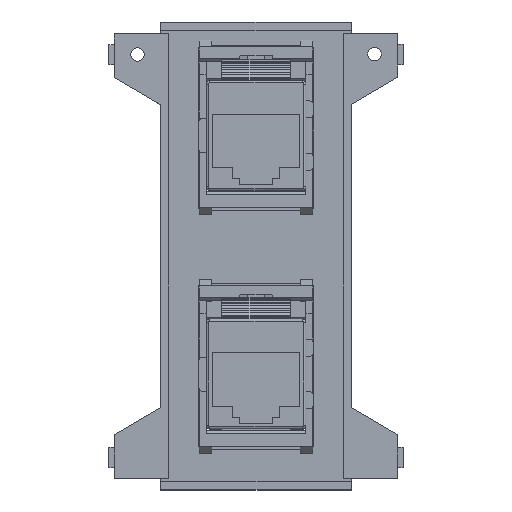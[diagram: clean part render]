
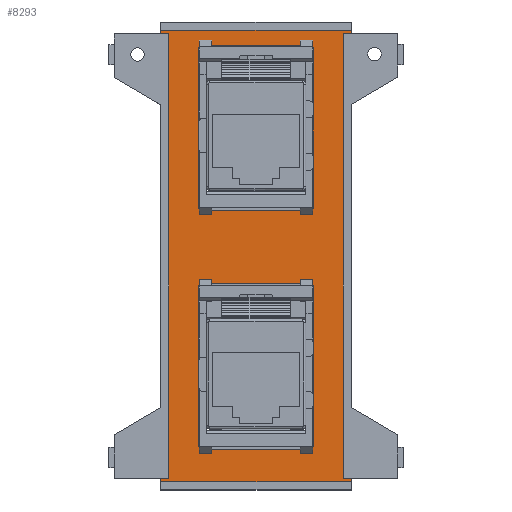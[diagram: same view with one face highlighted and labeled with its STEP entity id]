
A CAD part, top view. The second image highlights one B-rep face of the part: STEP entity #8293.
In plain terms, the highlighted planar face has unit normal (0, 0, 1).
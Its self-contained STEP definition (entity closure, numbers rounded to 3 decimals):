
#7807 = VERTEX_POINT('',#7808);
#7808 = CARTESIAN_POINT('',(-30.95,-7.9,1.2));
#7814 = EDGE_CURVE('',#7815,#7807,#7817,.T.);
#7815 = VERTEX_POINT('',#7816);
#7816 = CARTESIAN_POINT('',(-30.95,7.9,1.2));
#7817 = LINE('',#7818,#7819);
#7818 = CARTESIAN_POINT('',(-30.95,-4.2,1.2));
#7819 = VECTOR('',#7820,1.);
#7820 = DIRECTION('',(0.,-1.,0.));
#7838 = VERTEX_POINT('',#7839);
#7839 = CARTESIAN_POINT('',(-30.45,-8.4,1.2));
#7845 = EDGE_CURVE('',#7807,#7838,#7846,.T.);
#7846 = CIRCLE('',#7847,0.5);
#7847 = AXIS2_PLACEMENT_3D('',#7848,#7849,#7850);
#7848 = CARTESIAN_POINT('',(-30.45,-7.9,1.2));
#7849 = DIRECTION('',(-0.,0.,1.));
#7850 = DIRECTION('',(0.,-1.,0.));
#7862 = EDGE_CURVE('',#7815,#7863,#7865,.T.);
#7863 = VERTEX_POINT('',#7864);
#7864 = CARTESIAN_POINT('',(-30.45,8.4,1.2));
#7865 = CIRCLE('',#7866,0.5);
#7866 = AXIS2_PLACEMENT_3D('',#7867,#7868,#7869);
#7867 = CARTESIAN_POINT('',(-30.45,7.9,1.2));
#7868 = DIRECTION('',(-0.,-0.,-1.));
#7869 = DIRECTION('',(0.,-1.,0.));
#7888 = VERTEX_POINT('',#7889);
#7889 = CARTESIAN_POINT('',(-7.15,-8.4,1.2));
#7895 = EDGE_CURVE('',#7838,#7888,#7896,.T.);
#7896 = LINE('',#7897,#7898);
#7897 = CARTESIAN_POINT('',(-3.325,-8.4,1.2));
#7898 = VECTOR('',#7899,1.);
#7899 = DIRECTION('',(1.,0.,0.));
#7912 = EDGE_CURVE('',#7913,#7863,#7915,.T.);
#7913 = VERTEX_POINT('',#7914);
#7914 = CARTESIAN_POINT('',(-7.15,8.4,1.2));
#7915 = LINE('',#7916,#7917);
#7916 = CARTESIAN_POINT('',(-15.475,8.4,1.2));
#7917 = VECTOR('',#7918,1.);
#7918 = DIRECTION('',(-1.,0.,0.));
#7936 = VERTEX_POINT('',#7937);
#7937 = CARTESIAN_POINT('',(-6.65,-7.9,1.2));
#7943 = EDGE_CURVE('',#7888,#7936,#7944,.T.);
#7944 = CIRCLE('',#7945,0.5);
#7945 = AXIS2_PLACEMENT_3D('',#7946,#7947,#7948);
#7946 = CARTESIAN_POINT('',(-7.15,-7.9,1.2));
#7947 = DIRECTION('',(-0.,0.,1.));
#7948 = DIRECTION('',(0.,-1.,0.));
#7961 = EDGE_CURVE('',#7962,#7913,#7964,.T.);
#7962 = VERTEX_POINT('',#7963);
#7963 = CARTESIAN_POINT('',(-6.65,7.9,1.2));
#7964 = CIRCLE('',#7965,0.5);
#7965 = AXIS2_PLACEMENT_3D('',#7966,#7967,#7968);
#7966 = CARTESIAN_POINT('',(-7.15,7.9,1.2));
#7967 = DIRECTION('',(-0.,0.,1.));
#7968 = DIRECTION('',(0.,-1.,0.));
#7986 = EDGE_CURVE('',#7936,#7962,#7987,.T.);
#7987 = LINE('',#7988,#7989);
#7988 = CARTESIAN_POINT('',(-6.65,4.2,1.2));
#7989 = VECTOR('',#7990,1.);
#7990 = DIRECTION('',(0.,1.,0.));
#8103 = VERTEX_POINT('',#8104);
#8104 = CARTESIAN_POINT('',(4.05,-7.9,1.2));
#8110 = EDGE_CURVE('',#8111,#8103,#8113,.T.);
#8111 = VERTEX_POINT('',#8112);
#8112 = CARTESIAN_POINT('',(4.05,7.9,1.2));
#8113 = LINE('',#8114,#8115);
#8114 = CARTESIAN_POINT('',(4.05,-4.2,1.2));
#8115 = VECTOR('',#8116,1.);
#8116 = DIRECTION('',(0.,-1.,0.));
#8134 = VERTEX_POINT('',#8135);
#8135 = CARTESIAN_POINT('',(4.55,-8.4,1.2));
#8141 = EDGE_CURVE('',#8103,#8134,#8142,.T.);
#8142 = CIRCLE('',#8143,0.5);
#8143 = AXIS2_PLACEMENT_3D('',#8144,#8145,#8146);
#8144 = CARTESIAN_POINT('',(4.55,-7.9,1.2));
#8145 = DIRECTION('',(-0.,0.,1.));
#8146 = DIRECTION('',(0.,-1.,0.));
#8158 = EDGE_CURVE('',#8111,#8159,#8161,.T.);
#8159 = VERTEX_POINT('',#8160);
#8160 = CARTESIAN_POINT('',(4.55,8.4,1.2));
#8161 = CIRCLE('',#8162,0.5);
#8162 = AXIS2_PLACEMENT_3D('',#8163,#8164,#8165);
#8163 = CARTESIAN_POINT('',(4.55,7.9,1.2));
#8164 = DIRECTION('',(-0.,-0.,-1.));
#8165 = DIRECTION('',(0.,-1.,0.));
#8184 = VERTEX_POINT('',#8185);
#8185 = CARTESIAN_POINT('',(27.85,-8.4,1.2));
#8191 = EDGE_CURVE('',#8134,#8184,#8192,.T.);
#8192 = LINE('',#8193,#8194);
#8193 = CARTESIAN_POINT('',(14.175,-8.4,1.2));
#8194 = VECTOR('',#8195,1.);
#8195 = DIRECTION('',(1.,0.,0.));
#8208 = EDGE_CURVE('',#8209,#8159,#8211,.T.);
#8209 = VERTEX_POINT('',#8210);
#8210 = CARTESIAN_POINT('',(27.85,8.4,1.2));
#8211 = LINE('',#8212,#8213);
#8212 = CARTESIAN_POINT('',(2.025,8.4,1.2));
#8213 = VECTOR('',#8214,1.);
#8214 = DIRECTION('',(-1.,0.,0.));
#8232 = VERTEX_POINT('',#8233);
#8233 = CARTESIAN_POINT('',(28.35,-7.9,1.2));
#8239 = EDGE_CURVE('',#8184,#8232,#8240,.T.);
#8240 = CIRCLE('',#8241,0.5);
#8241 = AXIS2_PLACEMENT_3D('',#8242,#8243,#8244);
#8242 = CARTESIAN_POINT('',(27.85,-7.9,1.2));
#8243 = DIRECTION('',(-0.,0.,1.));
#8244 = DIRECTION('',(0.,-1.,0.));
#8257 = EDGE_CURVE('',#8258,#8209,#8260,.T.);
#8258 = VERTEX_POINT('',#8259);
#8259 = CARTESIAN_POINT('',(28.35,7.9,1.2));
#8260 = CIRCLE('',#8261,0.5);
#8261 = AXIS2_PLACEMENT_3D('',#8262,#8263,#8264);
#8262 = CARTESIAN_POINT('',(27.85,7.9,1.2));
#8263 = DIRECTION('',(-0.,0.,1.));
#8264 = DIRECTION('',(0.,-1.,0.));
#8282 = EDGE_CURVE('',#8232,#8258,#8283,.T.);
#8283 = LINE('',#8284,#8285);
#8284 = CARTESIAN_POINT('',(28.35,4.2,1.2));
#8285 = VECTOR('',#8286,1.);
#8286 = DIRECTION('',(0.,1.,0.));
#8293 = ADVANCED_FACE('',(#8294,#8304,#8402),#8412,.T.);
#8294 = FACE_BOUND('',#8295,.T.);
#8295 = EDGE_LOOP('',(#8296,#8297,#8298,#8299,#8300,#8301,#8302,#8303));
#8296 = ORIENTED_EDGE('',*,*,#7912,.F.);
#8297 = ORIENTED_EDGE('',*,*,#7961,.F.);
#8298 = ORIENTED_EDGE('',*,*,#7986,.F.);
#8299 = ORIENTED_EDGE('',*,*,#7943,.F.);
#8300 = ORIENTED_EDGE('',*,*,#7895,.F.);
#8301 = ORIENTED_EDGE('',*,*,#7845,.F.);
#8302 = ORIENTED_EDGE('',*,*,#7814,.F.);
#8303 = ORIENTED_EDGE('',*,*,#7862,.T.);
#8304 = FACE_BOUND('',#8305,.T.);
#8305 = EDGE_LOOP('',(#8306,#8316,#8324,#8332,#8340,#8348,#8356,#8364,
    #8372,#8380,#8388,#8396));
#8306 = ORIENTED_EDGE('',*,*,#8307,.F.);
#8307 = EDGE_CURVE('',#8308,#8310,#8312,.T.);
#8308 = VERTEX_POINT('',#8309);
#8309 = CARTESIAN_POINT('',(-33.15,-14.,1.2));
#8310 = VERTEX_POINT('',#8311);
#8311 = CARTESIAN_POINT('',(-33.15,14.,1.2));
#8312 = LINE('',#8313,#8314);
#8313 = CARTESIAN_POINT('',(-33.15,-14.,1.2));
#8314 = VECTOR('',#8315,1.);
#8315 = DIRECTION('',(0.,1.,0.));
#8316 = ORIENTED_EDGE('',*,*,#8317,.T.);
#8317 = EDGE_CURVE('',#8308,#8318,#8320,.T.);
#8318 = VERTEX_POINT('',#8319);
#8319 = CARTESIAN_POINT('',(-32.65,-14.,1.2));
#8320 = LINE('',#8321,#8322);
#8321 = CARTESIAN_POINT('',(-34.35,-14.,1.2));
#8322 = VECTOR('',#8323,1.);
#8323 = DIRECTION('',(1.,0.,0.));
#8324 = ORIENTED_EDGE('',*,*,#8325,.F.);
#8325 = EDGE_CURVE('',#8326,#8318,#8328,.T.);
#8326 = VERTEX_POINT('',#8327);
#8327 = CARTESIAN_POINT('',(-32.65,-12.8,1.2));
#8328 = LINE('',#8329,#8330);
#8329 = CARTESIAN_POINT('',(-32.65,-12.8,1.2));
#8330 = VECTOR('',#8331,1.);
#8331 = DIRECTION('',(0.,-1.,0.));
#8332 = ORIENTED_EDGE('',*,*,#8333,.F.);
#8333 = EDGE_CURVE('',#8334,#8326,#8336,.T.);
#8334 = VERTEX_POINT('',#8335);
#8335 = CARTESIAN_POINT('',(32.65,-12.8,1.2));
#8336 = LINE('',#8337,#8338);
#8337 = CARTESIAN_POINT('',(32.65,-12.8,1.2));
#8338 = VECTOR('',#8339,1.);
#8339 = DIRECTION('',(-1.,0.,0.));
#8340 = ORIENTED_EDGE('',*,*,#8341,.F.);
#8341 = EDGE_CURVE('',#8342,#8334,#8344,.T.);
#8342 = VERTEX_POINT('',#8343);
#8343 = CARTESIAN_POINT('',(32.65,-14.,1.2));
#8344 = LINE('',#8345,#8346);
#8345 = CARTESIAN_POINT('',(32.65,-14.,1.2));
#8346 = VECTOR('',#8347,1.);
#8347 = DIRECTION('',(0.,1.,0.));
#8348 = ORIENTED_EDGE('',*,*,#8349,.T.);
#8349 = EDGE_CURVE('',#8342,#8350,#8352,.T.);
#8350 = VERTEX_POINT('',#8351);
#8351 = CARTESIAN_POINT('',(33.15,-14.,1.2));
#8352 = LINE('',#8353,#8354);
#8353 = CARTESIAN_POINT('',(-34.35,-14.,1.2));
#8354 = VECTOR('',#8355,1.);
#8355 = DIRECTION('',(1.,0.,0.));
#8356 = ORIENTED_EDGE('',*,*,#8357,.F.);
#8357 = EDGE_CURVE('',#8358,#8350,#8360,.T.);
#8358 = VERTEX_POINT('',#8359);
#8359 = CARTESIAN_POINT('',(33.15,14.,1.2));
#8360 = LINE('',#8361,#8362);
#8361 = CARTESIAN_POINT('',(33.15,14.,1.2));
#8362 = VECTOR('',#8363,1.);
#8363 = DIRECTION('',(0.,-1.,0.));
#8364 = ORIENTED_EDGE('',*,*,#8365,.T.);
#8365 = EDGE_CURVE('',#8358,#8366,#8368,.T.);
#8366 = VERTEX_POINT('',#8367);
#8367 = CARTESIAN_POINT('',(32.65,14.,1.2));
#8368 = LINE('',#8369,#8370);
#8369 = CARTESIAN_POINT('',(34.35,14.,1.2));
#8370 = VECTOR('',#8371,1.);
#8371 = DIRECTION('',(-1.,0.,0.));
#8372 = ORIENTED_EDGE('',*,*,#8373,.F.);
#8373 = EDGE_CURVE('',#8374,#8366,#8376,.T.);
#8374 = VERTEX_POINT('',#8375);
#8375 = CARTESIAN_POINT('',(32.65,12.8,1.2));
#8376 = LINE('',#8377,#8378);
#8377 = CARTESIAN_POINT('',(32.65,12.8,1.2));
#8378 = VECTOR('',#8379,1.);
#8379 = DIRECTION('',(0.,1.,0.));
#8380 = ORIENTED_EDGE('',*,*,#8381,.F.);
#8381 = EDGE_CURVE('',#8382,#8374,#8384,.T.);
#8382 = VERTEX_POINT('',#8383);
#8383 = CARTESIAN_POINT('',(-32.65,12.8,1.2));
#8384 = LINE('',#8385,#8386);
#8385 = CARTESIAN_POINT('',(-32.65,12.8,1.2));
#8386 = VECTOR('',#8387,1.);
#8387 = DIRECTION('',(1.,0.,0.));
#8388 = ORIENTED_EDGE('',*,*,#8389,.F.);
#8389 = EDGE_CURVE('',#8390,#8382,#8392,.T.);
#8390 = VERTEX_POINT('',#8391);
#8391 = CARTESIAN_POINT('',(-32.65,14.,1.2));
#8392 = LINE('',#8393,#8394);
#8393 = CARTESIAN_POINT('',(-32.65,14.,1.2));
#8394 = VECTOR('',#8395,1.);
#8395 = DIRECTION('',(0.,-1.,0.));
#8396 = ORIENTED_EDGE('',*,*,#8397,.T.);
#8397 = EDGE_CURVE('',#8390,#8310,#8398,.T.);
#8398 = LINE('',#8399,#8400);
#8399 = CARTESIAN_POINT('',(34.35,14.,1.2));
#8400 = VECTOR('',#8401,1.);
#8401 = DIRECTION('',(-1.,0.,0.));
#8402 = FACE_BOUND('',#8403,.T.);
#8403 = EDGE_LOOP('',(#8404,#8405,#8406,#8407,#8408,#8409,#8410,#8411));
#8404 = ORIENTED_EDGE('',*,*,#8208,.F.);
#8405 = ORIENTED_EDGE('',*,*,#8257,.F.);
#8406 = ORIENTED_EDGE('',*,*,#8282,.F.);
#8407 = ORIENTED_EDGE('',*,*,#8239,.F.);
#8408 = ORIENTED_EDGE('',*,*,#8191,.F.);
#8409 = ORIENTED_EDGE('',*,*,#8141,.F.);
#8410 = ORIENTED_EDGE('',*,*,#8110,.F.);
#8411 = ORIENTED_EDGE('',*,*,#8158,.T.);
#8412 = PLANE('',#8413);
#8413 = AXIS2_PLACEMENT_3D('',#8414,#8415,#8416);
#8414 = CARTESIAN_POINT('',(0.,0.,1.2));
#8415 = DIRECTION('',(0.,0.,1.));
#8416 = DIRECTION('',(1.,0.,-0.));
